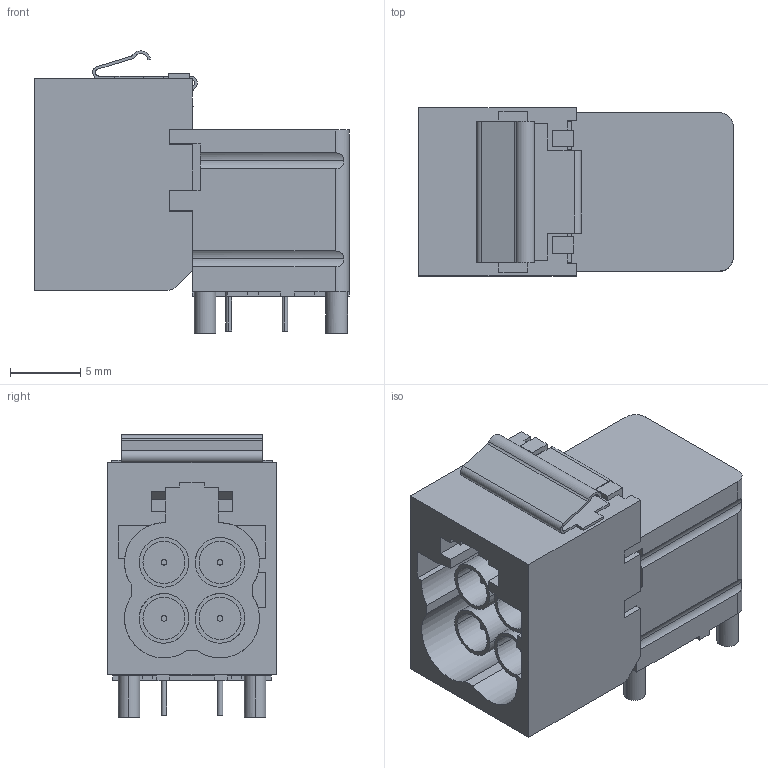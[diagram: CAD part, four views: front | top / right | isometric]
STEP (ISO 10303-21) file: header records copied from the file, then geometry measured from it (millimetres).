
FILE_DESCRIPTION(('CATIA V5 STEP','CAx-IF Rec.Pracs.--- Model Styling and Organization---1.5--- 2016-08-15','CAx-IF Rec.Pracs.---Supplemental Geometry---1.0---2011-11-01','CAx-IF Rec.Pracs.--- Composite Materials ---1.1---2010-07-15'),'2;1');
FILE_NAME('\\fss02.ad.sws.co.jp\fs100070\事務・購入\特命業務\特-35ｰ部品総合カタログメンテナンス\26年度\WEBカタログ用3D\260612_webカタログ新規登録用簡易3D\モデル保存場所\HFC5シリーズ\6099-1548.stp','2026-06-24T10:05:53+00:00',('none'),('none'),'CATIA Version 5-6 Release 2022 SP2 HF23','CATIA V5 STEP AP214 v2','none');
FILE_SCHEMA(('AUTOMOTIVE_DESIGN { 1 0 10303 214 1 1 1 1 }'));
Length unit declared in the file: millimetre
Products named in the file (1): 6099-1548
Bounding box: 22.45 x 12 x 20.15 mm (x, y, z)
Volume: 2648.1 mm3; surface area: 2921.6 mm2
Topology: 1 solids, 1 shells, 277 faces, 781 edges, 526 vertices
Faces by surface type: plane 206, cylinder 71
Entity records: 8395 total; most frequent: CARTESIAN_POINT 1670, ORIENTED_EDGE 1562, DIRECTION 1086, EDGE_CURVE 781, VECTOR 621, LINE 621, VERTEX_POINT 526, AXIS2_PLACEMENT_3D 299
